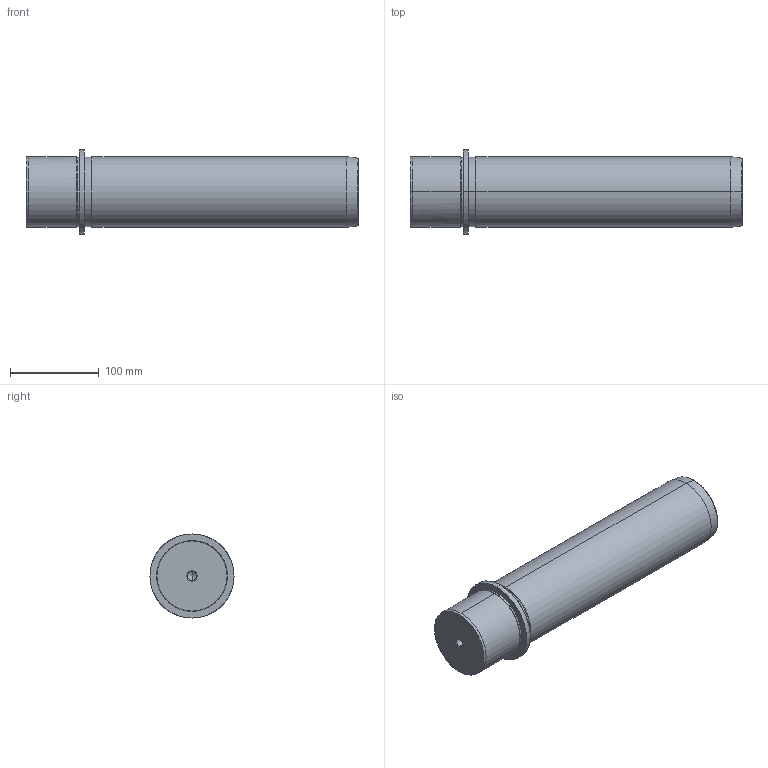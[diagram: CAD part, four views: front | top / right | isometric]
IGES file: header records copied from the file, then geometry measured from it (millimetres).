
Start section: START RECORD GO HERE.
Global section: file name: 719-80x315.igs; native system: DASSAULT SYSTEMES CATIA V5 R20 - www.3ds.com; preprocessor: CATIA Version 5 Release 20 ; author: Utente; organization: NB04-ASUS; date: 20210103.153755; units: millimetre
Bounding box: 375 x 95 x 95 mm (x, y, z)
Surface area: 109877.4 mm2 (no closed solid volume)
Topology: 0 solids, 0 shells, 36 faces, 220 edges, 216 vertices
Faces by surface type: revolution 32, plane 4
